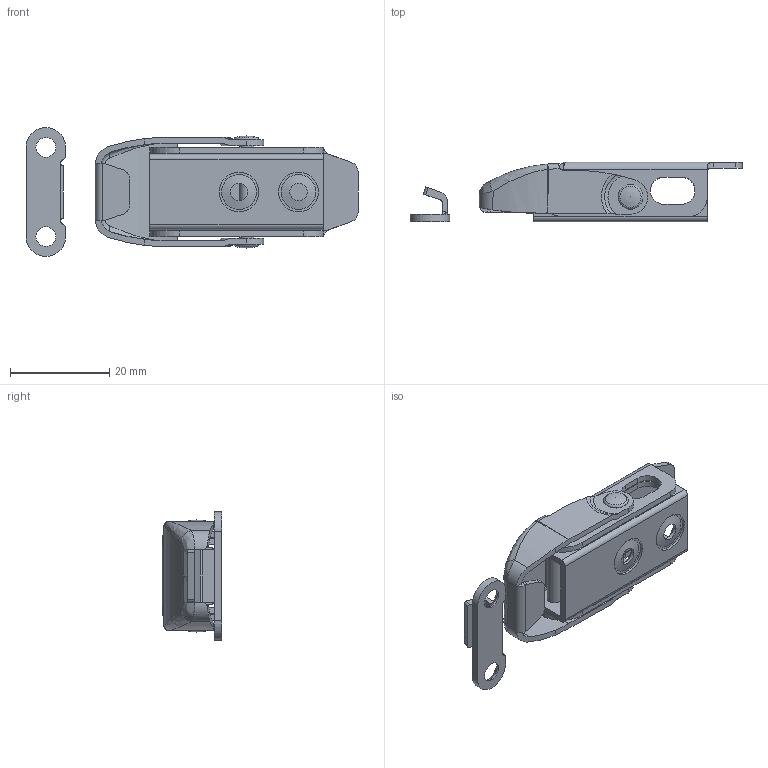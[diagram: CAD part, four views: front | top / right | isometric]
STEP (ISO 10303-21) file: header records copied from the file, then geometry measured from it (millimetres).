
FILE_DESCRIPTION(/* description */ (''),/* implementation_level */ '2;1');
FILE_NAME(/* name */ '\\NAS\db20\C-1537-4\DR_C-1537-4.stp',/* time_stamp */ '2018-03-01T10:02:43+09:00',/* author */ ('user'),/* organization */ (''),/* preprocessor_version */ 'ST-DEVELOPER v15.6',/* originating_system */ 'Autodesk Inventor 2015',/* authorisation */ '');
FILE_SCHEMA (('AUTOMOTIVE_DESIGN { 1 0 10303 214 3 1 1 }'));
Length unit declared in the file: millimetre
Products named in the file (5): DR_C-1537-4_Plate; DR_C-1537-4_BR; DR_C-1537-4_Catch; DR_C-1537-4_Catch_Plate; DR_C-1537-4
Bounding box: 66.97 x 12 x 26 mm (x, y, z)
Volume: 4115.9 mm3; surface area: 7774.1 mm2
Topology: 6 solids, 6 shells, 233 faces, 633 edges, 410 vertices
Faces by surface type: cylinder 97, plane 96, bspline 18, torus 14, cone 6, sphere 2
Full cylindrical faces by diameter (mm): 3 x4, 3.5 x2, 4 x2, 5 x2, 8 x2
Entity records: 8252 total; most frequent: CARTESIAN_POINT 2469, ORIENTED_EDGE 1182, DIRECTION 1139, EDGE_CURVE 591, AXIS2_PLACEMENT_3D 418, VERTEX_POINT 398, LINE 303, VECTOR 303
